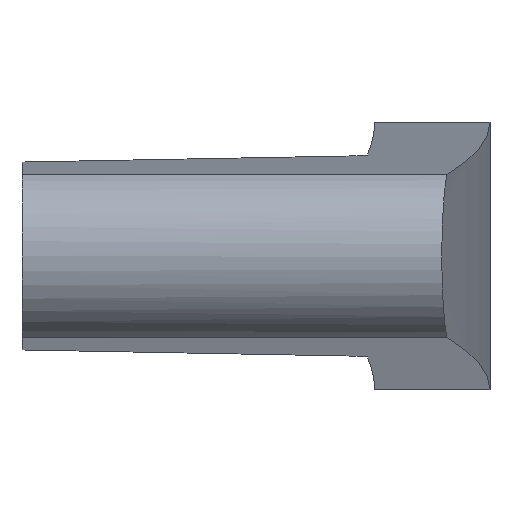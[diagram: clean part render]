
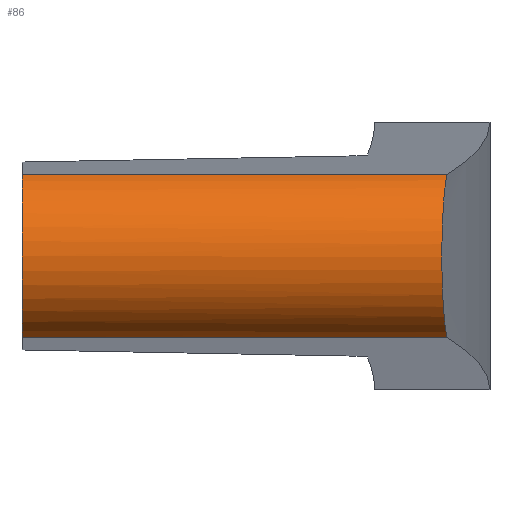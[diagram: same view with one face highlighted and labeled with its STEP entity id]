
A CAD part, left-side view. The second image highlights one B-rep face of the part: STEP entity #86.
In plain terms, the highlighted cylindrical face has radius 5.286 mm (diameter 10.571 mm), a partial arc.
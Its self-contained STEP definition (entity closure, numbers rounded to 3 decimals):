
#86 = ADVANCED_FACE( '', ( #118 ), #119, .T. );
#118 = FACE_OUTER_BOUND( '', #160, .T. );
#119 = CYLINDRICAL_SURFACE( '', #161, 5.286 );
#160 = EDGE_LOOP( '', ( #265, #266, #267, #268 ) );
#161 = AXIS2_PLACEMENT_3D( '', #269, #270, #271 );
#265 = ORIENTED_EDGE( '', *, *, #376, .F. );
#266 = ORIENTED_EDGE( '', *, *, #375, .F. );
#267 = ORIENTED_EDGE( '', *, *, #377, .F. );
#268 = ORIENTED_EDGE( '', *, *, #359, .T. );
#269 = CARTESIAN_POINT( '', ( -5.704, 0., 0. ) );
#270 = DIRECTION( '', ( 0., 1., 0. ) );
#271 = DIRECTION( '', ( -0.384, 0., -0.923 ) );
#359 = EDGE_CURVE( '', #425, #423, #426, .T. );
#375 = EDGE_CURVE( '', #453, #445, #455, .T. );
#376 = EDGE_CURVE( '', #445, #423, #456, .T. );
#377 = EDGE_CURVE( '', #425, #453, #457, .T. );
#423 = VERTEX_POINT( '', #537 );
#425 = VERTEX_POINT( '', #539 );
#426 = LINE( '', #540, #541 );
#445 = VERTEX_POINT( '', #565 );
#453 = VERTEX_POINT( '', #574 );
#455 = LINE( '', #577, #578 );
#456 = B_SPLINE_CURVE_WITH_KNOTS( '', 3, ( #579, #580, #581, #582, #583, #584, #585, #586, #587, #588, #589, #590, #591, #592, #593, #594, #595, #596, #597, #598, #599, #600, #601, #602, #603, #604, #605 ), .UNSPECIFIED., .F., .F., ( 4, 2, 2, 2, 2, 2, 3, 2, 2, 2, 2, 2, 4 ), ( -5.976, -4.981, -3.981, -2.986, -1.991, -0.995, 0., 0.995, 1.991, 2.986, 3.981, 4.981, 5.976 ), .UNSPECIFIED. );
#457 = CIRCLE( '', #606, 5.286 );
#537 = CARTESIAN_POINT( '', ( -7.734, -25.43, -4.881 ) );
#539 = CARTESIAN_POINT( '', ( -7.734, 0., -4.881 ) );
#540 = CARTESIAN_POINT( '', ( -7.734, 0., -4.881 ) );
#541 = VECTOR( '', #667, 1. );
#565 = CARTESIAN_POINT( '', ( -7.734, -25.43, 4.881 ) );
#574 = CARTESIAN_POINT( '', ( -7.734, 0., 4.881 ) );
#577 = CARTESIAN_POINT( '', ( -7.734, 0., 4.881 ) );
#578 = VECTOR( '', #699, 1. );
#579 = CARTESIAN_POINT( '', ( -7.734, -25.43, 4.881 ) );
#580 = CARTESIAN_POINT( '', ( -8.058, -25.4, 4.746 ) );
#581 = CARTESIAN_POINT( '', ( -8.368, -25.371, 4.578 ) );
#582 = CARTESIAN_POINT( '', ( -8.945, -25.317, 4.191 ) );
#583 = CARTESIAN_POINT( '', ( -9.21, -25.291, 3.97 ) );
#584 = CARTESIAN_POINT( '', ( -9.679, -25.247, 3.5 ) );
#585 = CARTESIAN_POINT( '', ( -9.899, -25.226, 3.235 ) );
#586 = CARTESIAN_POINT( '', ( -10.286, -25.188, 2.659 ) );
#587 = CARTESIAN_POINT( '', ( -10.453, -25.172, 2.347 ) );
#588 = CARTESIAN_POINT( '', ( -10.723, -25.146, 1.696 ) );
#589 = CARTESIAN_POINT( '', ( -10.825, -25.136, 1.357 ) );
#590 = CARTESIAN_POINT( '', ( -10.958, -25.123, 0.675 ) );
#591 = CARTESIAN_POINT( '', ( -10.99, -25.12, 0.332 ) );
#592 = CARTESIAN_POINT( '', ( -10.99, -25.12, 0. ) );
#593 = CARTESIAN_POINT( '', ( -10.99, -25.12, -0.332 ) );
#594 = CARTESIAN_POINT( '', ( -10.958, -25.123, -0.675 ) );
#595 = CARTESIAN_POINT( '', ( -10.825, -25.136, -1.357 ) );
#596 = CARTESIAN_POINT( '', ( -10.723, -25.146, -1.696 ) );
#597 = CARTESIAN_POINT( '', ( -10.453, -25.172, -2.347 ) );
#598 = CARTESIAN_POINT( '', ( -10.286, -25.188, -2.659 ) );
#599 = CARTESIAN_POINT( '', ( -9.899, -25.226, -3.235 ) );
#600 = CARTESIAN_POINT( '', ( -9.679, -25.247, -3.5 ) );
#601 = CARTESIAN_POINT( '', ( -9.21, -25.291, -3.97 ) );
#602 = CARTESIAN_POINT( '', ( -8.945, -25.317, -4.191 ) );
#603 = CARTESIAN_POINT( '', ( -8.368, -25.371, -4.578 ) );
#604 = CARTESIAN_POINT( '', ( -8.058, -25.4, -4.746 ) );
#605 = CARTESIAN_POINT( '', ( -7.734, -25.43, -4.881 ) );
#606 = AXIS2_PLACEMENT_3D( '', #700, #701, #702 );
#667 = DIRECTION( '', ( 0., -1., 0. ) );
#699 = DIRECTION( '', ( 0., -1., 0. ) );
#700 = CARTESIAN_POINT( '', ( -5.704, 0., 0. ) );
#701 = DIRECTION( '', ( 0., 1., 0. ) );
#702 = DIRECTION( '', ( -0.384, 0., -0.923 ) );
